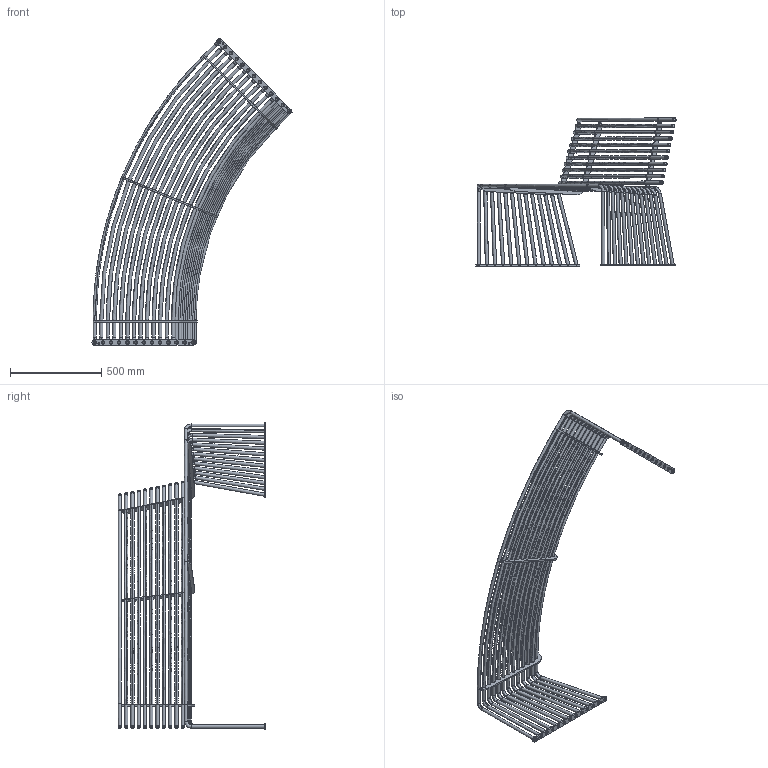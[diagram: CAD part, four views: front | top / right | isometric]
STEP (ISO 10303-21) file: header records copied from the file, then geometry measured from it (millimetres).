
FILE_DESCRIPTION(('STEP AP203'),'1');
FILE_NAME('Panchina 015 inox con schienale convessa.step','2018-01-09T15:22:20',(' '),(' '),'Spatial InterOp 3D',' ',' ');
FILE_SCHEMA(('CONFIG_CONTROL_DESIGN'));
Length unit declared in the file: millimetre
Products named in the file (1): 1
Bounding box: 1098.36 x 810.77 x 1682.2 mm (x, y, z)
Volume: 4519296.7 mm3; surface area: 5331517 mm2
Topology: 51 solids, 51 shells, 1049 faces, 2596 edges, 1652 vertices
Faces by surface type: cylinder 466, bspline 272, plane 184, cone 44, torus 36, extrusion 25, sphere 22
Full cylindrical faces by diameter (mm): 6 x6, 9 x4, 14.9 x22, 15 x70, 15.3 x22, 18 x92, 18.3 x10
Entity records: 292816 total; most frequent: CARTESIAN_POINT 270943, ORIENTED_EDGE 4370, DIRECTION 4114, EDGE_CURVE 2185, AXIS2_PLACEMENT_3D 1865, VERTEX_POINT 1570, EDGE_LOOP 1501, FACE_OUTER_BOUND 1315
